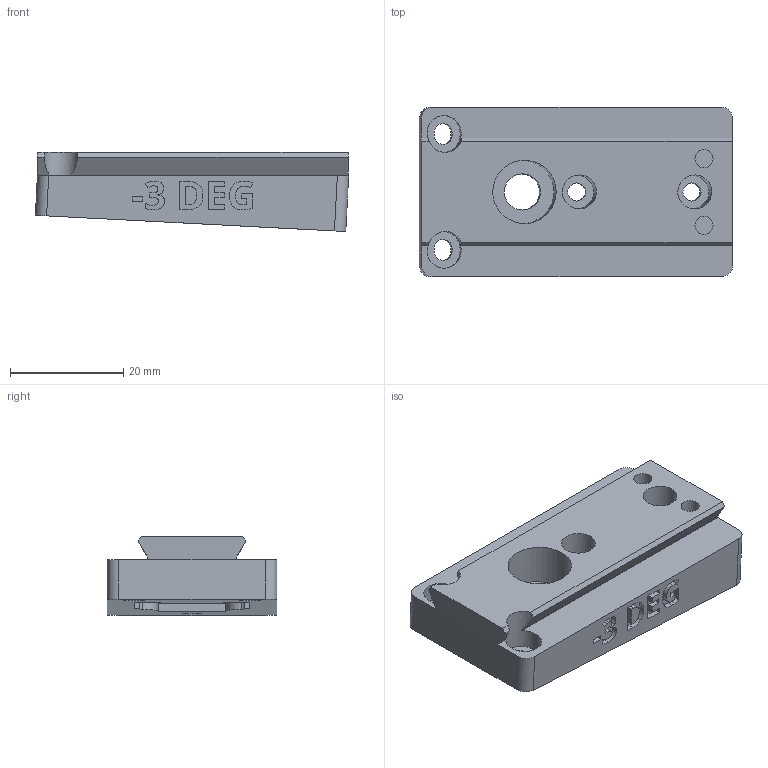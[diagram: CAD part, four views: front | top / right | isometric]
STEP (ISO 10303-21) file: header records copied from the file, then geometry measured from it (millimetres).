
FILE_DESCRIPTION(/* description */ ('STEP AP242 Edition 2','CAx-IF Rec.Pracs.---Representation and Presentation of Product Manufacturing Information (PMI)---4.0---2014-10-13','CAx-IF Rec.Pracs.---3D Tessellated Geometry---0.4---2014-09-14','2;1','CAx-IF Rec.Pracs.---User Defined Attributes---1.5---2016-08-15'),/* implementation_level */ '2;1');
FILE_NAME(/* name */ 'Camera Wedges - CAMERA MOUNTING WEDGE, NEG, -3 DEG',/* time_stamp */ '2026-07-08T20:36:20Z',/* author */ (''),/* organization */ (''),/* preprocessor_version */ 'ST-DEVELOPER v20',/* originating_system */ 'ONSHAPE BY PTC INC, 1.217',/* authorisation */ ' ');
FILE_SCHEMA (('AP242_MANAGED_MODEL_BASED_3D_ENGINEERING_MIM_LF { 1 0 10303 442 3 1 4 }'));
Length unit declared in the file: metre
Products named in the file (1): CAMERA MOUNTING WEDGE, NEG, -3 DEG
Bounding box: 55.44 x 30 x 13.99 mm (x, y, z)
Volume: 15086 mm3; surface area: 6755.2 mm2
Topology: 1 solids, 1 shells, 237 faces, 649 edges, 432 vertices
Faces by surface type: plane 131, bspline 64, cylinder 42
Full cylindrical faces by diameter (mm): 3.2 x4, 6 x2, 6.4 x1, 11.2 x1
Entity records: 7701 total; most frequent: CARTESIAN_POINT 2015, ORIENTED_EDGE 1282, DIRECTION 957, EDGE_CURVE 641, VERTEX_POINT 432, LINE 417, VECTOR 417, EDGE_LOOP 273
